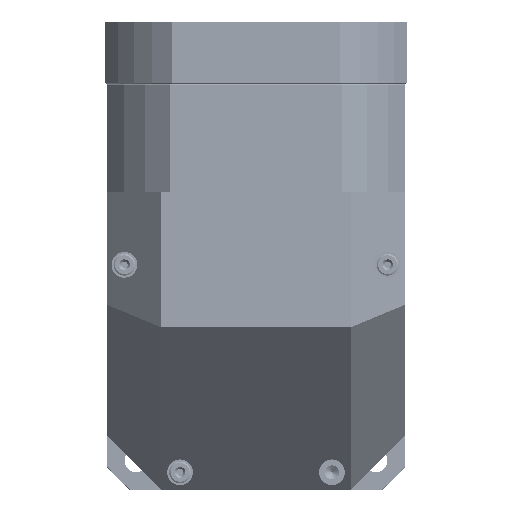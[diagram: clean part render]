
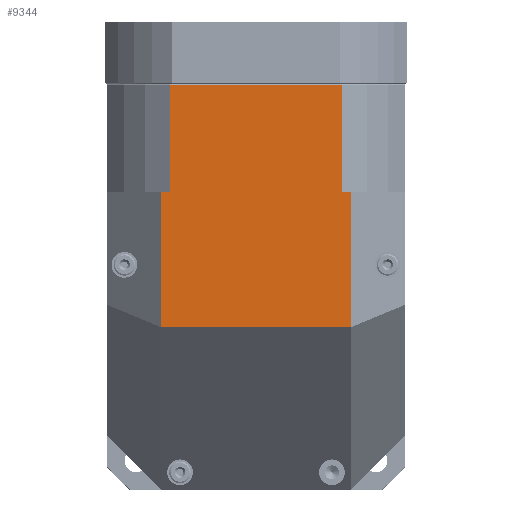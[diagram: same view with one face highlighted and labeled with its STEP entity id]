
A CAD part, front view. The second image highlights one B-rep face of the part: STEP entity #9344.
In plain terms, the highlighted planar face has unit normal (0, -1, 0).
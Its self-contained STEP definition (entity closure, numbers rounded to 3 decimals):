
#9273=CARTESIAN_POINT('',(-110.,-110.0,189.5));
#9274=DIRECTION('',(0.0,-1.0,0.0));
#9275=DIRECTION('',(-1.0,0.0,0.0));
#9276=AXIS2_PLACEMENT_3D('',#9273,#9274,#9275);
#9277=PLANE('',#9276);
#9278=CARTESIAN_POINT('',(63.474,-110.0,110.));
#9279=VERTEX_POINT('',#9278);
#9280=CARTESIAN_POINT('',(63.474,-110.,188.5));
#9281=VERTEX_POINT('',#9280);
#9282=CARTESIAN_POINT('',(63.474,-110.0,110.));
#9283=DIRECTION('',(0.0,0.0,1.0));
#9284=VECTOR('',#9283,78.5);
#9285=LINE('',#9282,#9284);
#9286=EDGE_CURVE('',#9279,#9281,#9285,.T.);
#9287=ORIENTED_EDGE('',*,*,#9286,.T.);
#9288=CARTESIAN_POINT('',(-63.474,-110.,188.5));
#9289=VERTEX_POINT('',#9288);
#9290=CARTESIAN_POINT('',(63.474,-110.0,188.5));
#9291=DIRECTION('',(-1.0,0.0,0.0));
#9292=VECTOR('',#9291,126.949);
#9293=LINE('',#9290,#9292);
#9294=EDGE_CURVE('',#9281,#9289,#9293,.T.);
#9295=ORIENTED_EDGE('',*,*,#9294,.T.);
#9296=CARTESIAN_POINT('',(-63.474,-110.0,110.));
#9297=VERTEX_POINT('',#9296);
#9298=CARTESIAN_POINT('',(-63.474,-110.0,188.5));
#9299=DIRECTION('',(0.0,0.0,-1.0));
#9300=VECTOR('',#9299,78.5);
#9301=LINE('',#9298,#9300);
#9302=EDGE_CURVE('',#9289,#9297,#9301,.T.);
#9303=ORIENTED_EDGE('',*,*,#9302,.T.);
#9304=CARTESIAN_POINT('',(-70.,-110.0,110.));
#9305=VERTEX_POINT('',#9304);
#9306=CARTESIAN_POINT('',(-70.,-110.0,110.));
#9307=DIRECTION('',(1.0,0.0,0.0));
#9308=VECTOR('',#9307,6.526);
#9309=LINE('',#9306,#9308);
#9310=EDGE_CURVE('',#9305,#9297,#9309,.T.);
#9311=ORIENTED_EDGE('',*,*,#9310,.F.);
#9312=CARTESIAN_POINT('',(-70.,-110.0,10.));
#9313=VERTEX_POINT('',#9312);
#9314=CARTESIAN_POINT('',(-70.,-110.0,110.));
#9315=DIRECTION('',(0.0,0.0,-1.0));
#9316=VECTOR('',#9315,100.);
#9317=LINE('',#9314,#9316);
#9318=EDGE_CURVE('',#9305,#9313,#9317,.T.);
#9319=ORIENTED_EDGE('',*,*,#9318,.T.);
#9320=CARTESIAN_POINT('',(70.,-110.0,10.));
#9321=VERTEX_POINT('',#9320);
#9322=CARTESIAN_POINT('',(-70.,-110.0,10.));
#9323=DIRECTION('',(1.0,0.0,0.0));
#9324=VECTOR('',#9323,140.);
#9325=LINE('',#9322,#9324);
#9326=EDGE_CURVE('',#9313,#9321,#9325,.T.);
#9327=ORIENTED_EDGE('',*,*,#9326,.T.);
#9328=CARTESIAN_POINT('',(70.,-110.0,110.));
#9329=VERTEX_POINT('',#9328);
#9330=CARTESIAN_POINT('',(70.,-110.0,10.));
#9331=DIRECTION('',(0.0,0.0,1.0));
#9332=VECTOR('',#9331,100.);
#9333=LINE('',#9330,#9332);
#9334=EDGE_CURVE('',#9321,#9329,#9333,.T.);
#9335=ORIENTED_EDGE('',*,*,#9334,.T.);
#9336=CARTESIAN_POINT('',(63.474,-110.0,110.));
#9337=DIRECTION('',(1.0,0.0,0.0));
#9338=VECTOR('',#9337,6.526);
#9339=LINE('',#9336,#9338);
#9340=EDGE_CURVE('',#9279,#9329,#9339,.T.);
#9341=ORIENTED_EDGE('',*,*,#9340,.F.);
#9342=EDGE_LOOP('',(#9287,#9295,#9303,#9311,#9319,#9327,#9335,#9341));
#9343=FACE_OUTER_BOUND('',#9342,.T.);
#9344=ADVANCED_FACE('',(#9343),#9277,.T.);
